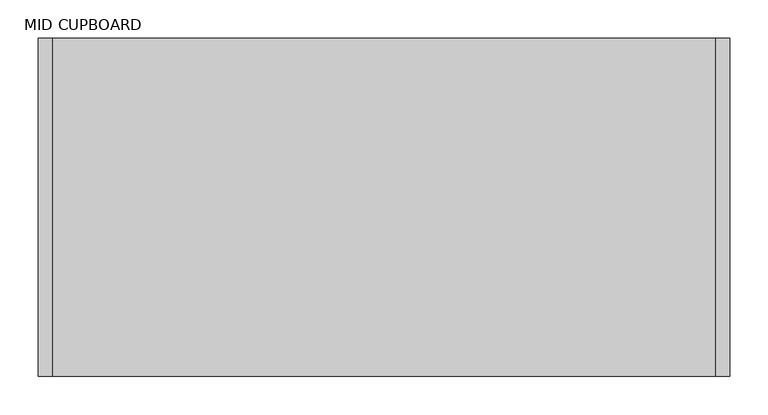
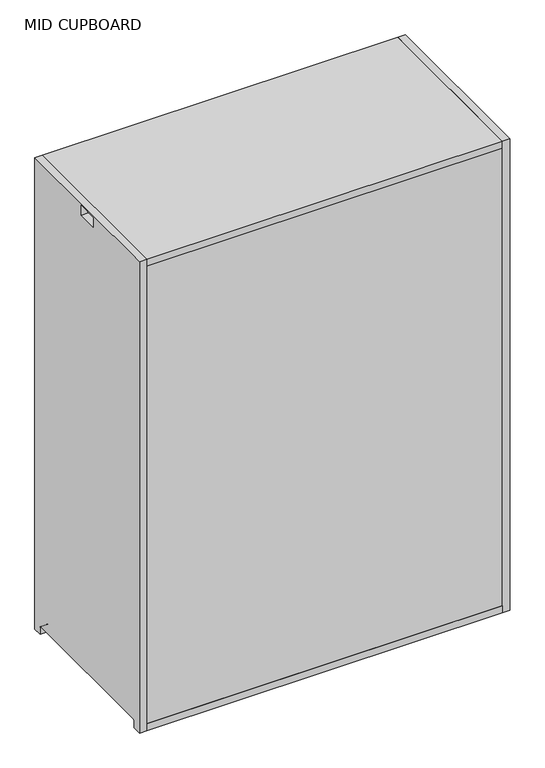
"""IFC4 building model written with IfcOpenShell, lengths in millimetres: furniture geometry, MID CUPBOARD : 900mmW_SHELVES & DIVIDER."""

from ifc_helpers import new_model, si_unit, point, frame, frame_2d, origin, place, context, project, spatial, polyline, circle_curve, trimmed, segment, composite_curve, outline, extrude, source, transform, mapped, element, save
from ifc_brep_helpers import plane_surface, revolved_surface, advanced_brep


def mid_cupboard_ca97d081(model_context):
    return source(origin(), model_context, "Body", "SolidModel", [
        extrude(outline(composite_curve([segment(polyline([(220.0, 1210.0), (220.0, 0.0), (198.0, 0.0), (198.0, 17.0)]), True, "CONTINUOUS"), segment(trimmed(circle_curve(frame_2d((194.0, 17.0)), 4.0), [point((198.0, 17.0))], [point((194.0, 21.0))], True, "CARTESIAN"), True, "CONTINUOUS"), segment(polyline([(194.0, 21.0), (-194.0, 21.0)]), True, "CONTINUOUS"), segment(trimmed(circle_curve(frame_2d((-194.0, 17.0)), 4.0), [point((-194.0, 21.0))], [point((-198.0, 17.0))], True, "CARTESIAN"), True, "CONTINUOUS"), segment(polyline([(-198.0, 17.0), (-198.0, 0.0), (-220.0, 0.0), (-220.0, 1210.0), (220.0, 1210.0)]), True, "CONTINUOUS")], self_intersect=False), holes=[polyline([(26.0, 1205.0), (-26.0, 1205.0), (-26.0, 1180.0), (26.0, 1180.0), (26.0, 1205.0)])]), frame((-450.0, 0.0, 0.0), z_axis=(1.0, 0.0, 0.0), x_axis=(0.0, 1.0, 0.0)), (0.0, 0.0, 1.0), 18.0),
        advanced_brep(
        [(432.0, -220.0, 18.0), (432.0, 220.0, 18.0), (-432.0, 220.0, 18.0), (-432.0, 197.8729833, 18.0), (-426.1019215, 197.8729833, 18.0), (-426.1019215, -197.8729833, 18.0), (-432.0, -197.8729833, 18.0), (-432.0, -220.0, 18.0), (432.0, -220.0, 0.0), (-432.0, -220.0, 0.0), (-432.0, -198.0, 0.0), (-426.1019215, -198.0, 0.0), (-426.1019215, 198.0, 0.0), (-432.0, 198.0, 0.0), (-432.0, 220.0, 0.0), (432.0, 220.0, 0.0), (-432.0, -198.0, 17.0), (-432.0, 198.0, 17.0), (-426.1019215, -198.0, 17.0), (-426.1019215, 198.0, 17.0)],
        [
            (0, 1),
            (1, 2),
            (2, 3),
            (3, 4),
            (4, 5),
            (5, 6),
            (6, 7),
            (7, 0),
            (8, 9),
            (9, 10),
            (10, 11),
            (11, 12),
            (12, 13),
            (13, 14),
            (14, 15),
            (15, 8),
            (7, 9),
            (8, 0),
            (6, 16, circle_curve(frame((-432.0, -194.0, 17.0), z_axis=(1.0, 0.0, 0.0), x_axis=(0.0, -1.0, 0.0)), 4.0)),
            (16, 10),
            (13, 17),
            (17, 3, circle_curve(frame((-432.0, 194.0, 17.0), z_axis=(1.0, 0.0, 0.0), x_axis=(0.0, -1.0, 0.0)), 4.0)),
            (2, 14),
            (1, 15),
            (18, 5, circle_curve(frame((-426.1019215, -194.0, 17.0), z_axis=(-1.0, 0.0, 0.0), x_axis=(0.0, -1.0, 0.0)), 4.0)),
            (4, 19, circle_curve(frame((-426.1019215, 194.0, 17.0), z_axis=(-1.0, 0.0, 0.0), x_axis=(0.0, -1.0, 0.0)), 4.0)),
            (19, 12),
            (11, 18),
            (17, 19),
            (16, 18),
        ],
        [
            plane_surface(frame((-432.0, -220.0, 18.0), z_axis=(0.0, 0.0, 1.0), x_axis=(-1.0, 0.0, 0.0))),
            plane_surface(frame((-432.0, -220.0, 0.0), z_axis=(0.0, 0.0, -1.0), x_axis=(1.0, 0.0, 0.0))),
            plane_surface(frame((432.0, -220.0, 18.0), z_axis=(0.0, -1.0, 0.0), x_axis=(0.0, 0.0, -1.0))),
            plane_surface(frame((-432.0, -220.0, 18.0), z_axis=(-1.0, 0.0, 0.0), x_axis=(0.0, 0.0, -1.0))),
            plane_surface(frame((-432.0, 220.0, 18.0), z_axis=(0.0, 1.0, 0.0), x_axis=(0.0, 0.0, -1.0))),
            plane_surface(frame((432.0, 220.0, 18.0), z_axis=(1.0, 0.0, 0.0), x_axis=(0.0, 0.0, -1.0))),
            plane_surface(frame((-426.1019215, 190.0, 17.0), z_axis=(-1.0, 0.0, 0.0), x_axis=(0.0, 0.0, 1.0))),
            revolved_surface(polyline([(-426.1019215, 190.0, 17.0), (-432.0, 190.0, 17.0)]), (-456.0458228, 194.0, 17.0), (1.0, 0.0, 0.0)),
            plane_surface(frame((-426.1019215, 198.0, 17.0), z_axis=(0.0, -1.0, 0.0), x_axis=(-1.0, 0.0, 0.0))),
            plane_surface(frame((-426.1019215, -198.0, 0.0), z_axis=(0.0, 1.0, 0.0), x_axis=(-1.0, 0.0, 0.0))),
            revolved_surface(polyline([(-426.1019215, -198.0, 17.0), (-432.0, -198.0, 17.0)]), (-456.0458228, -194.0, 17.0), (1.0, 0.0, 0.0)),
        ],
        [
            (0, [[1, 2, 3, 4, 5, 6, 7, 8]]),
            (1, [[9, 10, 11, 12, 13, 14, 15, 16]]),
            (2, [[17, -9, 18, -8]]),
            (3, [[-7, 19, 20, -10, -17]]),
            (3, [[-14, 21, 22, -3, 23]]),
            (4, [[24, -15, -23, -2]]),
            (5, [[-18, -16, -24, -1]]),
            (6, [[25, -5, 26, 27, -12, 28]]),
            (7, [[-4, -22, 29, -26]]),
            (8, [[-29, -21, -13, -27]]),
            (9, [[-11, -20, 30, -28]]),
            (10, [[-30, -19, -6, -25]]),
        ],
    ),
        extrude(outline(composite_curve([segment(polyline([(220.0, 1210.0), (220.0, 0.0), (198.0, 0.0), (198.0, 17.0)]), True, "CONTINUOUS"), segment(trimmed(circle_curve(frame_2d((194.0, 17.0)), 4.0), [point((198.0, 17.0))], [point((194.0, 21.0))], True, "CARTESIAN"), True, "CONTINUOUS"), segment(polyline([(194.0, 21.0), (-194.0, 21.0)]), True, "CONTINUOUS"), segment(trimmed(circle_curve(frame_2d((-194.0, 17.0)), 4.0), [point((-194.0, 21.0))], [point((-198.0, 17.0))], True, "CARTESIAN"), True, "CONTINUOUS"), segment(polyline([(-198.0, 17.0), (-198.0, 0.0), (-220.0, 0.0), (-220.0, 1210.0), (220.0, 1210.0)]), True, "CONTINUOUS")], self_intersect=False), holes=[polyline([(26.0, 1205.0), (-26.0, 1205.0), (-26.0, 1180.0), (26.0, 1180.0), (26.0, 1205.0)])]), frame((432.0, 0.0, 0.0), z_axis=(1.0, 0.0, 0.0), x_axis=(0.0, 1.0, 0.0)), (0.0, 0.0, 1.0), 18.0),
        extrude(outline(polyline([(432.0, -220.0), (-432.0, -220.0), (-432.0, -202.0), (432.0, -202.0), (432.0, -220.0)])), frame((0.0, 0.0, 18.0), z_axis=(0.0, 0.0, 1.0), x_axis=(1.0, 0.0, 0.0)), (0.0, 0.0, 1.0), 1174.0),
        extrude(outline(polyline([(432.0, -202.0), (-432.0, -202.0), (-432.0, 220.0), (432.0, 220.0), (432.0, -202.0)])), frame((0.0, 0.0, 398.5), z_axis=(0.0, 0.0, 1.0), x_axis=(1.0, 0.0, 0.0)), (0.0, 0.0, 1.0), 18.0),
        extrude(outline(polyline([(432.0, -202.0), (-432.0, -202.0), (-432.0, 220.0), (432.0, 220.0), (432.0, -202.0)])), frame((0.0, 0.0, 793.5), z_axis=(0.0, 0.0, 1.0), x_axis=(1.0, 0.0, 0.0)), (0.0, 0.0, 1.0), 18.0),
        extrude(outline(polyline([(432.0, -220.0), (-432.0, -220.0), (-432.0, 220.0), (432.0, 220.0), (432.0, -220.0)])), frame((0.0, 0.0, 1192.0), z_axis=(0.0, 0.0, 1.0), x_axis=(1.0, 0.0, 0.0)), (0.0, 0.0, 1.0), 18.0),
        extrude(outline(polyline([(9.0, -202.0), (-9.0, -202.0), (-9.0, 220.0), (9.0, 220.0), (9.0, -202.0)])), frame((0.0, 0.0, 18.0), z_axis=(0.0, 0.0, 1.0), x_axis=(1.0, 0.0, 0.0)), (0.0, 0.0, 1.0), 1174.0),
    ])


if __name__ == "__main__":
    model = new_model("IFC4")
    model_context = context("Model", 3, world=origin())
    ifc_project = project(units=[si_unit("LENGTHUNIT", "METRE", prefix="MILLI")], contexts=[model_context])
    site = spatial("IfcSite", under=ifc_project)
    building = spatial("IfcBuilding", under=site)
    placement = place(None, origin())
    mid_cupboard_shape = mid_cupboard_ca97d081(model_context)
    element("IfcFurniture", 1, ObjectType="MID CUPBOARD : 900mmW_SHELVES & DIVIDER", at=placement, inside=building, context=model_context, shape_type="MappedRepresentation", body=[
        mapped(mid_cupboard_shape, transform((0.0, 0.0, 0.0), x_axis=(1.0, 0.0, 0.0), y_axis=(0.0, 1.0, 0.0), z_axis=(0.0, 0.0, 1.0))),
    ])
    save(model, "model.ifc")
